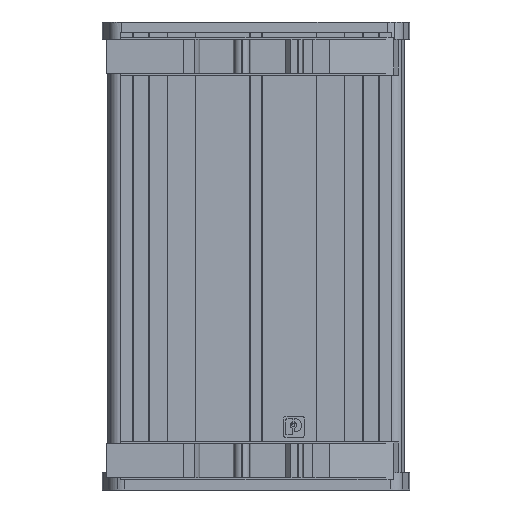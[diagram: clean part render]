
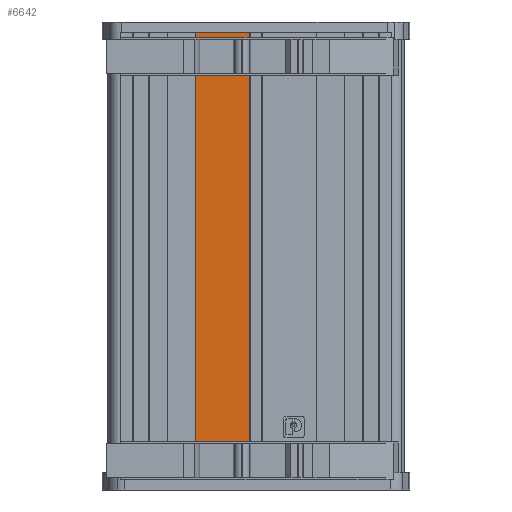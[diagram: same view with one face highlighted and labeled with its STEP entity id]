
A CAD part, front view. The second image highlights one B-rep face of the part: STEP entity #6642.
In plain terms, the highlighted planar face has unit normal (0, -1, 0).
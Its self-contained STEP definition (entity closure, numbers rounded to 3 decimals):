
#2458=DIRECTION('',(0.,0.,-1.));
#2459=VECTOR('',#2458,130.48);
#2460=CARTESIAN_POINT('',(-0.95,19.6,73.98));
#2461=LINE('',#2460,#2459);
#2462=DIRECTION('',(-1.,0.,0.));
#2463=VECTOR('',#2462,16.55);
#2464=CARTESIAN_POINT('',(-0.95,19.6,73.98));
#2465=LINE('',#2464,#2463);
#2466=DIRECTION('',(1.,0.,0.));
#2467=VECTOR('',#2466,16.55);
#2468=CARTESIAN_POINT('',(-17.5,19.6,-56.5));
#2469=LINE('',#2468,#2467);
#2470=DIRECTION('',(0.,0.,-1.));
#2471=VECTOR('',#2470,130.48);
#2472=CARTESIAN_POINT('',(-17.5,19.6,73.98));
#2473=LINE('',#2472,#2471);
#2701=CARTESIAN_POINT('',(-17.5,19.6,-56.5));
#2702=CARTESIAN_POINT('',(-0.95,19.6,-56.5));
#2703=VERTEX_POINT('',#2701);
#2704=VERTEX_POINT('',#2702);
#3165=CARTESIAN_POINT('',(-0.95,19.6,73.98));
#3166=CARTESIAN_POINT('',(-17.5,19.6,73.98));
#3167=VERTEX_POINT('',#3165);
#3168=VERTEX_POINT('',#3166);
#6630=CARTESIAN_POINT('',(-0.95,19.6,0.));
#6631=DIRECTION('',(0.,-1.,0.));
#6632=DIRECTION('',(-1.,0.,0.));
#6633=AXIS2_PLACEMENT_3D('',#6630,#6631,#6632);
#6634=PLANE('',#6633);
#6635=ORIENTED_EDGE('',*,*,#3681,.F.);
#6636=ORIENTED_EDGE('',*,*,#6625,.T.);
#6637=ORIENTED_EDGE('',*,*,#3971,.F.);
#6639=ORIENTED_EDGE('',*,*,#6638,.F.);
#6640=EDGE_LOOP('',(#6635,#6636,#6637,#6639));
#6641=FACE_OUTER_BOUND('',#6640,.F.);
#6642=ADVANCED_FACE('',(#6641),#6634,.T.);
#3681=EDGE_CURVE('',#3167,#3168,#2465,.T.);
#3971=EDGE_CURVE('',#2703,#2704,#2469,.T.);
#6625=EDGE_CURVE('',#3167,#2704,#2461,.T.);
#6638=EDGE_CURVE('',#3168,#2703,#2473,.T.);
